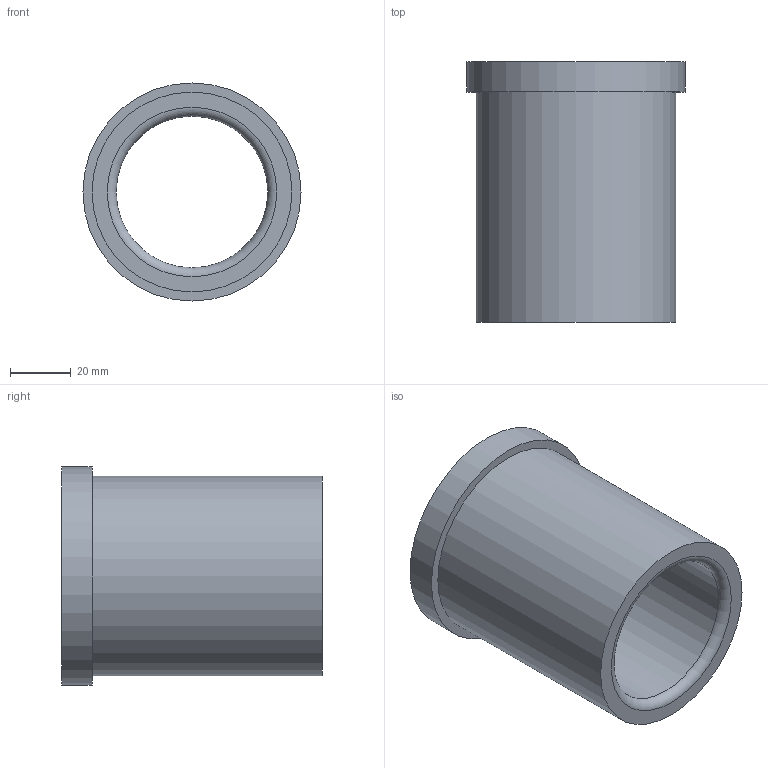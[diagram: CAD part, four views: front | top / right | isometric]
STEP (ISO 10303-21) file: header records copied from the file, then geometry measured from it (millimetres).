
FILE_DESCRIPTION(/* description */ ('STEP AP214'),/* implementation_level */ '2;1');
FILE_NAME(/* name */ '03_12_17869',/* time_stamp */ '2023-06-15T11:35:47+02:00',/* author */ ('License CC BY-ND 4.0'),/* organization */ ('CADENAS'),/* preprocessor_version */ 'ST-DEVELOPER v19.3',/* originating_system */ 'PARTsolutions',/* authorisation */ ' ');
FILE_SCHEMA (('AUTOMOTIVE_DESIGN {1 0 10303 214 3 1 1}'));
Length unit declared in the file: millimetre
Products named in the file (1): VA_Bushing_17869
Bounding box: 72 x 86 x 72 mm (x, y, z)
Volume: 130423.1 mm3; surface area: 35378.5 mm2
Topology: 1 solids, 1 shells, 10 faces, 16 edges, 10 vertices
Faces by surface type: cylinder 4, plane 4, torus 2
Full cylindrical faces by diameter (mm): 50 x1, 50.6 x1, 66 x1, 72 x1
Entity records: 302 total; most frequent: DIRECTION 42, CARTESIAN_POINT 31, AXIS2_PLACEMENT_3D 21, ORIENTED_EDGE 20, EDGE_LOOP 20, FACE_BOUND 20, EDGE_CURVE 10, VERTEX_POINT 10
